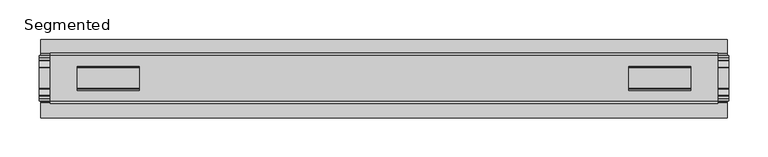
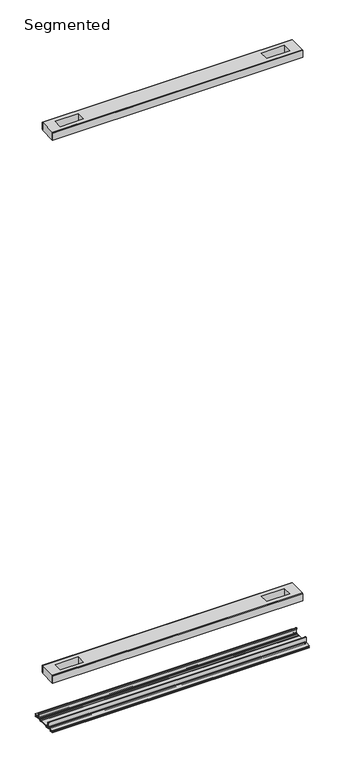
"""IFC4 building model written with IfcOpenShell, lengths in millimetres: proxy geometry, Frame-Teknion-FHCRA-Horizontal_Rail-R2022 : Segmented."""

from ifc_helpers import new_model, si_unit, point, frame, frame_2d, origin, place, context, project, spatial, polyline, circle_curve, trimmed, segment, composite_curve, outline, extrude, source, transform, mapped, element, save


def segmented_711b69e0(model_context):
    return source(origin(), model_context, "Body", "SweptSolid", [
        extrude(outline(polyline([(425.4460989, -29.0068005), (425.4460989, -32.1817997), (-425.4460989, -32.1817997), (-425.4460989, -29.0068005), (425.4460989, -29.0068005)])), frame((0.0, 0.0, 2107.0117561), z_axis=(0.0, 0.0, 1.0), x_axis=(1.0, 0.0, 0.0)), (0.0, 0.0, 1.0), 25.3999939),
        extrude(outline(polyline([(425.4460989, 32.1817997), (425.4460989, 29.0068005), (-425.4460989, 29.0068005), (-425.4460989, 32.1817997), (425.4460989, 32.1817997)])), frame((0.0, 0.0, 2107.0117561), z_axis=(0.0, 0.0, 1.0), x_axis=(1.0, 0.0, 0.0)), (0.0, 0.0, 1.0), 25.3999939),
        extrude(outline(polyline([(425.4460989, 29.0068005), (425.4460989, -29.0068005), (-425.4460989, -29.0068005), (-425.4460989, 29.0068005), (425.4460989, 29.0068005)]), holes=[polyline([(391.0290863, 15.1130038), (311.9842744, 15.1130038), (311.9842744, -15.875003), (391.0290863, -15.875003), (391.0290863, 15.1130038)]), polyline([(-391.0290863, 15.1130038), (-391.0290863, -15.875003), (-311.9842744, -15.875003), (-311.9842744, 15.1130038), (-391.0290863, 15.1130038)])]), frame((0.0, 0.0, 2105.5901786), z_axis=(0.0, 0.0, 1.0), x_axis=(1.0, 0.0, 0.0)), (0.0, 0.0, 1.0), 27.9999988),
        extrude(outline(polyline([(425.4460989, -29.0068005), (425.4460989, -32.1817997), (-425.4460989, -32.1817997), (-425.4460989, -29.0068005), (425.4460989, -29.0068005)])), frame((0.0, 0.0, 149.8401622), z_axis=(0.0, 0.0, 1.0), x_axis=(1.0, 0.0, 0.0)), (0.0, 0.0, 1.0), 25.3999939),
        extrude(outline(polyline([(425.4460989, 32.1817997), (425.4460989, 29.0068005), (-425.4460989, 29.0068005), (-425.4460989, 32.1817997), (425.4460989, 32.1817997)])), frame((0.0, 0.0, 149.8401622), z_axis=(0.0, 0.0, 1.0), x_axis=(1.0, 0.0, 0.0)), (0.0, 0.0, 1.0), 25.3999939),
        extrude(outline(polyline([(425.4460989, 29.0068005), (425.4460989, -29.0068005), (-425.4460989, -29.0068005), (-425.4460989, 29.0068005), (425.4460989, 29.0068005)]), holes=[polyline([(391.0290863, 15.1130038), (311.9842744, 15.1130038), (311.9842744, -15.875003), (391.0290863, -15.875003), (391.0290863, 15.1130038)]), polyline([(-391.0290863, 15.1130038), (-391.0290863, -15.875003), (-311.9842744, -15.875003), (-311.9842744, 15.1130038), (-391.0290863, 15.1130038)])]), frame((0.0, 0.0, 148.4185847), z_axis=(0.0, 0.0, 1.0), x_axis=(1.0, 0.0, 0.0)), (0.0, 0.0, 1.0), 27.9999988),
        extrude(outline(composite_curve([segment(polyline([(-28.8162961, -7.7516037), (-28.8162961, 9.8607558)]), True, "CONTINUOUS"), segment(trimmed(circle_curve(frame_2d((-27.5970982, 9.8607558)), 1.2191979), [point((-28.8162961, 9.8607558))], [point((-26.3779003, 9.8607558))], False, "CARTESIAN"), True, "CONTINUOUS"), segment(polyline([(-26.3779003, 9.8607558), (-26.3779003, 5.9999563), (-27.6580769, 5.9999563), (-27.6580769, -7.7516037)]), True, "CONTINUOUS"), segment(trimmed(circle_curve(frame_2d((-26.6420561, -7.7516037)), 1.0160208), [point((-27.6580769, -7.7516037))], [point((-26.6485732, -8.7676036))], True, "CARTESIAN"), True, "CONTINUOUS"), segment(polyline([(-26.6485732, -8.7676036), (-22.7056226, -8.7676036), (-21.7922609, -8.968753)]), True, "CONTINUOUS"), segment(trimmed(circle_curve(frame_2d((-17.7673021, -6.1259382)), 4.9276657), [point((-21.7922609, -8.968753))], [point((-13.7423434, -8.968753))], True, "CARTESIAN"), True, "CONTINUOUS"), segment(polyline([(-13.7423434, -8.968753), (-12.8289726, -8.7676036), (13.2099722, -8.7676036), (14.123343, -8.968753)]), True, "CONTINUOUS"), segment(trimmed(circle_curve(frame_2d((18.1483018, -6.1259382)), 4.9276657), [point((14.123343, -8.968753))], [point((22.1732605, -8.968753))], True, "CARTESIAN"), True, "CONTINUOUS"), segment(polyline([(22.1732605, -8.968753), (23.0866222, -8.7676036), (27.0295728, -8.7676036)]), True, "CONTINUOUS"), segment(trimmed(circle_curve(frame_2d((27.0230557, -7.7516037)), 1.0160208), [point((27.0295728, -8.7676036))], [point((28.0390765, -7.7516037))], True, "CARTESIAN"), True, "CONTINUOUS"), segment(polyline([(28.0390765, -7.7516037), (28.0390765, 5.9999563), (26.7588999, 5.9999563), (26.7588999, 9.8607558)]), True, "CONTINUOUS"), segment(trimmed(circle_curve(frame_2d((27.9780978, 9.8607558)), 1.2191979), [point((26.7588999, 9.8607558))], [point((29.1972958, 9.8607558))], False, "CARTESIAN"), True, "CONTINUOUS"), segment(polyline([(29.1972958, 9.8607558), (29.1972958, -7.7516037)]), True, "CONTINUOUS"), segment(trimmed(circle_curve(frame_2d((27.0230557, -7.7516037)), 2.17424), [point((29.1972958, -7.7516037))], [point((27.0230557, -9.9258438))], False, "CARTESIAN"), True, "CONTINUOUS"), segment(polyline([(27.0230557, -9.9258438), (22.732069, -9.9258438)]), True, "CONTINUOUS"), segment(trimmed(circle_curve(frame_2d((18.1516545, -6.4800016)), 5.7318431), [point((22.732069, -9.9258438))], [point((13.57124, -9.9258438))], False, "CARTESIAN"), True, "CONTINUOUS"), segment(polyline([(13.57124, -9.9258438), (-13.1902404, -9.9258438)]), True, "CONTINUOUS"), segment(trimmed(circle_curve(frame_2d((-17.7706549, -6.4800016)), 5.7318431), [point((-13.1902404, -9.9258438))], [point((-22.3510694, -9.9258438))], False, "CARTESIAN"), True, "CONTINUOUS"), segment(polyline([(-22.3510694, -9.9258438), (-26.6420561, -9.9258438)]), True, "CONTINUOUS"), segment(trimmed(circle_curve(frame_2d((-26.6420561, -7.7516037)), 2.17424), [point((-26.6420561, -9.9258438))], [point((-28.8162961, -7.7516037))], False, "CARTESIAN"), True, "CONTINUOUS")], self_intersect=False)), frame((-439.5049898, 0.0, 0.0), z_axis=(1.0, 0.0, 0.0), x_axis=(0.0, 1.0, 0.0)), (0.0, 0.0, 1.0), 879.0099795),
        extrude(outline(composite_curve([segment(polyline([(-50.2668422, -13.9898438), (-50.2240211, -12.3388438), (-39.7827507, -12.3388438), (-39.7827507, -7.766844), (-50.2240211, -7.766844), (-50.2668422, -6.1158439), (-31.1784975, -6.1158439)]), True, "CONTINUOUS"), segment(trimmed(circle_curve(frame_2d((-31.1784975, -7.6398436)), 1.5239997), [point((-31.1784975, -6.1158439))], [point((-29.6544978, -7.6398436))], False, "CARTESIAN"), True, "CONTINUOUS"), segment(polyline([(-29.6544978, -7.6398436), (-29.6544978, -9.9258438), (-23.1058344, -9.9258438)]), True, "CONTINUOUS"), segment(trimmed(circle_curve(frame_2d((-17.7673021, -5.2268471)), 7.1119966), [point((-23.1058344, -9.9258438))], [point((-12.4287699, -9.9258438))], True, "CARTESIAN"), True, "CONTINUOUS"), segment(polyline([(-12.4287699, -9.9258438), (12.8097695, -9.9258438)]), True, "CONTINUOUS"), segment(trimmed(circle_curve(frame_2d((18.1483018, -5.2268471)), 7.1119966), [point((12.8097695, -9.9258438))], [point((23.486834, -9.9258438))], True, "CARTESIAN"), True, "CONTINUOUS"), segment(polyline([(23.486834, -9.9258438), (30.0354975, -9.9258438), (30.0354975, -7.7656583)]), True, "CONTINUOUS"), segment(trimmed(circle_curve(frame_2d((31.6864982, -7.7656583)), 1.6510007), [point((30.0354975, -7.7656583))], [point((31.6239218, -6.1158439))], False, "CARTESIAN"), True, "CONTINUOUS"), segment(polyline([(31.6239218, -6.1158439), (50.00625, -6.1158439), (50.00625, -7.766844), (40.1637503, -7.766844), (40.1637503, -12.3388438), (50.00625, -12.3388438), (50.00625, -13.9898438), (40.0367518, -13.9898438)]), True, "CONTINUOUS"), segment(trimmed(circle_curve(frame_2d((40.0367518, -12.4658438)), 1.524), [point((40.0367518, -13.9898438))], [point((38.5127519, -12.4658438))], False, "CARTESIAN"), True, "CONTINUOUS"), segment(polyline([(38.5127519, -12.4658438), (38.5127519, -7.766844), (31.686497, -7.766844), (31.686497, -10.0528438)]), True, "CONTINUOUS"), segment(trimmed(circle_curve(frame_2d((30.1624971, -10.0528438)), 1.524), [point((31.686497, -10.0528438))], [point((30.1624971, -11.5768438))], False, "CARTESIAN"), True, "CONTINUOUS"), segment(polyline([(30.1624971, -11.5768438), (23.6563549, -11.5768438)]), True, "CONTINUOUS"), segment(trimmed(circle_curve(frame_2d((18.1483018, -6.4968436)), 7.4930002), [point((23.6563549, -11.5768438))], [point((12.8904968, -11.8354331))], False, "CARTESIAN"), True, "CONTINUOUS"), segment(polyline([(12.8904968, -11.8354331), (-12.5094972, -11.8354331)]), True, "CONTINUOUS"), segment(trimmed(circle_curve(frame_2d((-17.7673021, -6.4968436)), 7.4930002), [point((-12.5094972, -11.8354331))], [point((-23.2753553, -11.5768438))], False, "CARTESIAN"), True, "CONTINUOUS"), segment(polyline([(-23.2753553, -11.5768438), (-29.7814974, -11.5768438)]), True, "CONTINUOUS"), segment(trimmed(circle_curve(frame_2d((-29.7814974, -10.0528438)), 1.524), [point((-29.7814974, -11.5768438))], [point((-31.3054974, -10.0528438))], False, "CARTESIAN"), True, "CONTINUOUS"), segment(polyline([(-31.3054974, -10.0528438), (-31.3054974, -7.766844), (-38.1317522, -7.766844), (-38.1317522, -12.4658438)]), True, "CONTINUOUS"), segment(trimmed(circle_curve(frame_2d((-39.6557522, -12.4658438)), 1.524), [point((-38.1317522, -12.4658438))], [point((-39.6557522, -13.9898438))], False, "CARTESIAN"), True, "CONTINUOUS"), segment(polyline([(-39.6557522, -13.9898438), (-50.2668422, -13.9898438)]), True, "CONTINUOUS")], self_intersect=False)), frame((-437.8539898, 0.0, 0.0), z_axis=(1.0, 0.0, 0.0), x_axis=(0.0, 1.0, 0.0)), (0.0, 0.0, 1.0), 875.7079795),
    ])


if __name__ == "__main__":
    model = new_model("IFC4")
    model_context = context("Model", 3, world=origin())
    ifc_project = project(units=[si_unit("LENGTHUNIT", "METRE", prefix="MILLI")], contexts=[model_context])
    site = spatial("IfcSite", under=ifc_project)
    building = spatial("IfcBuilding", under=site)
    placement = place(None, origin())
    segmented_shape = segmented_711b69e0(model_context)
    element("IfcBuildingElementProxy", 1, Name="Frame-Teknion-FHCRA-Horizontal_Rail-R2022 : Segmented", ObjectType="Frame-Teknion-FHCRA-Horizontal_Rail-R2022 : Segmented", at=placement, inside=building, context=model_context, shape_type="MappedRepresentation", body=[
        mapped(segmented_shape, transform((0.0, 0.0, 0.0), x_axis=(1.0, 0.0, 0.0), y_axis=(0.0, 1.0, 0.0), z_axis=(0.0, 0.0, 1.0))),
    ])
    save(model, "model.ifc")
